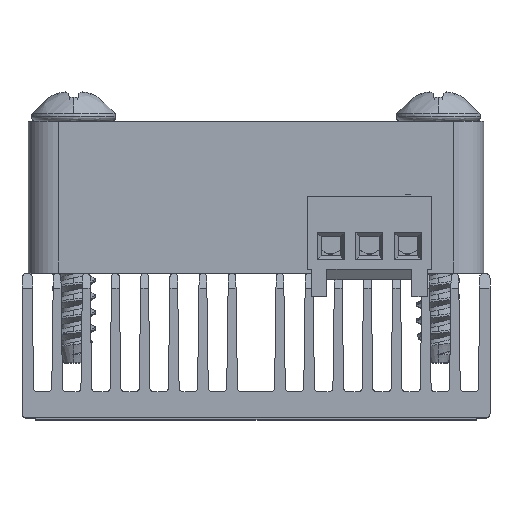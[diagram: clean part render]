
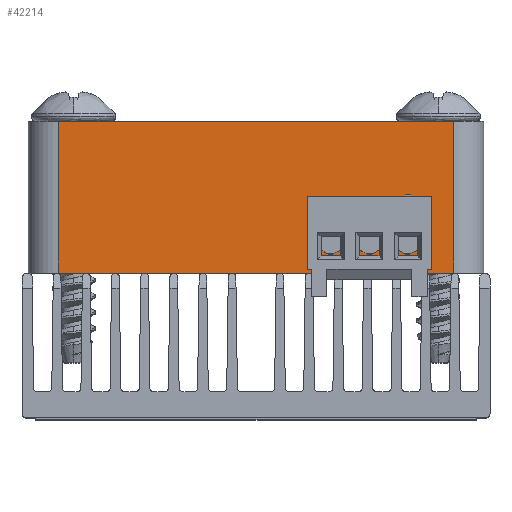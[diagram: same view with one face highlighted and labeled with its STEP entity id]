
A CAD part, top view. The second image highlights one B-rep face of the part: STEP entity #42214.
In plain terms, the highlighted planar face has unit normal (0, 0, 1).
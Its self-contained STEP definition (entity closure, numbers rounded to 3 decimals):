
#128 = EDGE_CURVE ( 'NONE', #43129, #1321, #7203, .T. ) ;
#249 = DIRECTION ( 'NONE',  ( 1., 0., 0. ) ) ;
#257 = EDGE_LOOP ( 'NONE', ( #7264, #36921 ) ) ;
#385 = DIRECTION ( 'NONE',  ( 0., 0., 1. ) ) ;
#863 = ORIENTED_EDGE ( 'NONE', *, *, #42907, .F. ) ;
#1321 = VERTEX_POINT ( 'NONE', #11435 ) ;
#3463 = CARTESIAN_POINT ( 'NONE',  ( -13., 19.5, 15. ) ) ;
#4196 = VERTEX_POINT ( 'NONE', #16250 ) ;
#4650 = CARTESIAN_POINT ( 'NONE',  ( 8.22, 11.5, 15. ) ) ;
#5419 = VERTEX_POINT ( 'NONE', #41195 ) ;
#6298 = CARTESIAN_POINT ( 'NONE',  ( 10.76, 11.5, 15. ) ) ;
#7203 = CIRCLE ( 'NONE', #23522, 0.76 ) ;
#7264 = ORIENTED_EDGE ( 'NONE', *, *, #19713, .F. ) ;
#10252 = FACE_BOUND ( 'NONE', #36084, .T. ) ;
#10959 = EDGE_CURVE ( 'NONE', #45558, #11164, #44701, .T. ) ;
#11040 = LINE ( 'NONE', #17528, #41970 ) ;
#11066 = CARTESIAN_POINT ( 'NONE',  ( 4.16, 11.5, 15. ) ) ;
#11164 = VERTEX_POINT ( 'NONE', #32170 ) ;
#11192 = DIRECTION ( 'NONE',  ( -1., 0., 0. ) ) ;
#11330 = DIRECTION ( 'NONE',  ( 0., -1., 0. ) ) ;
#11435 = CARTESIAN_POINT ( 'NONE',  ( 6.7, 11.5, 15. ) ) ;
#11804 = DIRECTION ( 'NONE',  ( 0., 0., -1. ) ) ;
#11908 = DIRECTION ( 'NONE',  ( 0., -1., 0. ) ) ;
#12852 = ORIENTED_EDGE ( 'NONE', *, *, #30795, .F. ) ;
#13077 = DIRECTION ( 'NONE',  ( 0., 0., 1. ) ) ;
#13677 = EDGE_LOOP ( 'NONE', ( #18429, #12852, #24893, #23897 ) ) ;
#16250 = CARTESIAN_POINT ( 'NONE',  ( 5.68, 11.5, 15. ) ) ;
#17006 = DIRECTION ( 'NONE',  ( 0., 0., 1. ) ) ;
#17301 = CARTESIAN_POINT ( 'NONE',  ( 7.46, 11.5, 15. ) ) ;
#17528 = CARTESIAN_POINT ( 'NONE',  ( -13., 9.5, 15. ) ) ;
#17607 = VERTEX_POINT ( 'NONE', #30832 ) ;
#17920 = FACE_BOUND ( 'NONE', #28774, .T. ) ;
#18139 = VERTEX_POINT ( 'NONE', #11066 ) ;
#18429 = ORIENTED_EDGE ( 'NONE', *, *, #36696, .T. ) ;
#19457 = CARTESIAN_POINT ( 'NONE',  ( -13., 19.5, 15. ) ) ;
#19713 = EDGE_CURVE ( 'NONE', #18139, #4196, #27996, .T. ) ;
#19978 = CIRCLE ( 'NONE', #33318, 0.76 ) ;
#20526 = VECTOR ( 'NONE', #11330, 1000. ) ;
#20964 = DIRECTION ( 'NONE',  ( 0., 0., 1. ) ) ;
#21254 = DIRECTION ( 'NONE',  ( -1., 0., 0. ) ) ;
#21417 = FACE_OUTER_BOUND ( 'NONE', #13677, .T. ) ;
#22056 = CIRCLE ( 'NONE', #28721, 0.76 ) ;
#22560 = CARTESIAN_POINT ( 'NONE',  ( 10., 11.5, 15. ) ) ;
#22808 = AXIS2_PLACEMENT_3D ( 'NONE', #22560, #36689, #23677 ) ;
#23522 = AXIS2_PLACEMENT_3D ( 'NONE', #17301, #45839, #21254 ) ;
#23677 = DIRECTION ( 'NONE',  ( -1., 0., 0. ) ) ;
#23897 = ORIENTED_EDGE ( 'NONE', *, *, #29543, .T. ) ;
#23980 = EDGE_CURVE ( 'NONE', #5419, #25965, #30916, .T. ) ;
#23992 = CARTESIAN_POINT ( 'NONE',  ( 4.92, 11.5, 15. ) ) ;
#24893 = ORIENTED_EDGE ( 'NONE', *, *, #10959, .F. ) ;
#25339 = DIRECTION ( 'NONE',  ( -1., 0., 0. ) ) ;
#25965 = VERTEX_POINT ( 'NONE', #6298 ) ;
#27304 = DIRECTION ( 'NONE',  ( 1., 0., 0. ) ) ;
#27996 = CIRCLE ( 'NONE', #44994, 0.76 ) ;
#28721 = AXIS2_PLACEMENT_3D ( 'NONE', #23992, #13077, #41143 ) ;
#28774 = EDGE_LOOP ( 'NONE', ( #36210, #863 ) ) ;
#28972 = LINE ( 'NONE', #39635, #20526 ) ;
#29254 = CARTESIAN_POINT ( 'NONE',  ( 4.92, 11.5, 15. ) ) ;
#29543 = EDGE_CURVE ( 'NONE', #45558, #17607, #28972, .T. ) ;
#29924 = CARTESIAN_POINT ( 'NONE',  ( -13., 19.5, 15. ) ) ;
#30588 = AXIS2_PLACEMENT_3D ( 'NONE', #3463, #11804, #36650 ) ;
#30795 = EDGE_CURVE ( 'NONE', #11164, #33916, #32358, .T. ) ;
#30832 = CARTESIAN_POINT ( 'NONE',  ( -13., 9.5, 15. ) ) ;
#30916 = CIRCLE ( 'NONE', #22808, 0.76 ) ;
#32083 = CARTESIAN_POINT ( 'NONE',  ( 10., 11.5, 15. ) ) ;
#32170 = CARTESIAN_POINT ( 'NONE',  ( 13., 19.5, 15. ) ) ;
#32358 = LINE ( 'NONE', #32803, #45787 ) ;
#32803 = CARTESIAN_POINT ( 'NONE',  ( 13., 19.5, 15. ) ) ;
#33318 = AXIS2_PLACEMENT_3D ( 'NONE', #37683, #17006, #44625 ) ;
#33916 = VERTEX_POINT ( 'NONE', #37473 ) ;
#34768 = VECTOR ( 'NONE', #27304, 1000. ) ;
#36084 = EDGE_LOOP ( 'NONE', ( #36860, #37564 ) ) ;
#36210 = ORIENTED_EDGE ( 'NONE', *, *, #23980, .F. ) ;
#36650 = DIRECTION ( 'NONE',  ( -1., 0., 0. ) ) ;
#36689 = DIRECTION ( 'NONE',  ( 0., 0., 1. ) ) ;
#36696 = EDGE_CURVE ( 'NONE', #17607, #33916, #11040, .T. ) ;
#36860 = ORIENTED_EDGE ( 'NONE', *, *, #39633, .F. ) ;
#36921 = ORIENTED_EDGE ( 'NONE', *, *, #37072, .F. ) ;
#37072 = EDGE_CURVE ( 'NONE', #4196, #18139, #22056, .T. ) ;
#37473 = CARTESIAN_POINT ( 'NONE',  ( 13., 9.5, 15. ) ) ;
#37564 = ORIENTED_EDGE ( 'NONE', *, *, #128, .F. ) ;
#37683 = CARTESIAN_POINT ( 'NONE',  ( 7.46, 11.5, 15. ) ) ;
#38083 = CIRCLE ( 'NONE', #38841, 0.76 ) ;
#38841 = AXIS2_PLACEMENT_3D ( 'NONE', #32083, #20964, #11192 ) ;
#39041 = PLANE ( 'NONE',  #30588 ) ;
#39633 = EDGE_CURVE ( 'NONE', #1321, #43129, #19978, .T. ) ;
#39635 = CARTESIAN_POINT ( 'NONE',  ( -13., 19.5, 15. ) ) ;
#41143 = DIRECTION ( 'NONE',  ( -1., 0., 0. ) ) ;
#41195 = CARTESIAN_POINT ( 'NONE',  ( 9.24, 11.5, 15. ) ) ;
#41970 = VECTOR ( 'NONE', #249, 1000. ) ;
#42032 = FACE_BOUND ( 'NONE', #257, .T. ) ;
#42214 = ADVANCED_FACE ( 'NONE', ( #21417, #17920, #10252, #42032 ), #39041, .F. ) ;
#42907 = EDGE_CURVE ( 'NONE', #25965, #5419, #38083, .T. ) ;
#43129 = VERTEX_POINT ( 'NONE', #4650 ) ;
#44625 = DIRECTION ( 'NONE',  ( -1., 0., 0. ) ) ;
#44701 = LINE ( 'NONE', #19457, #34768 ) ;
#44994 = AXIS2_PLACEMENT_3D ( 'NONE', #29254, #385, #25339 ) ;
#45558 = VERTEX_POINT ( 'NONE', #29924 ) ;
#45787 = VECTOR ( 'NONE', #11908, 1000. ) ;
#45839 = DIRECTION ( 'NONE',  ( 0., 0., 1. ) ) ;
